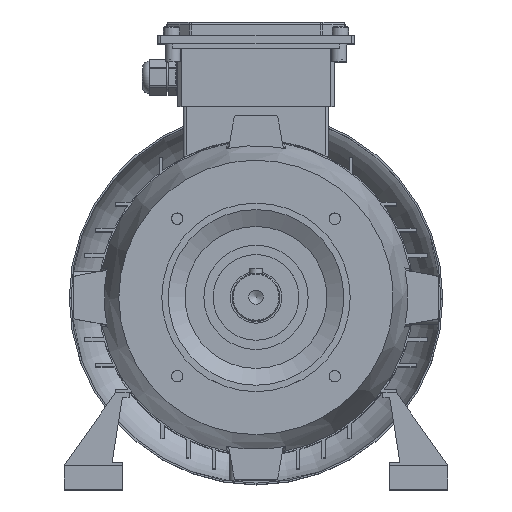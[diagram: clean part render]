
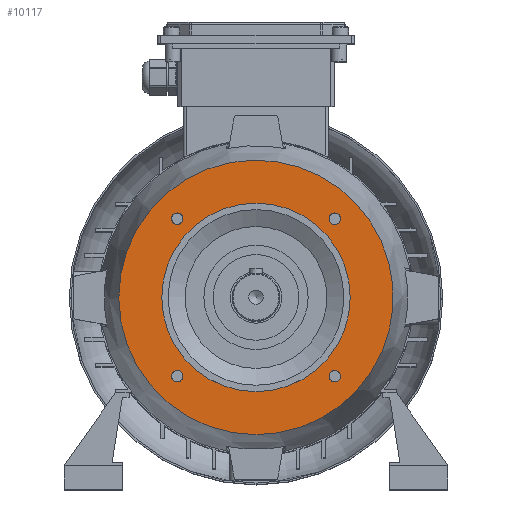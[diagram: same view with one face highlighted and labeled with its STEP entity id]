
A CAD part, top view. The second image highlights one B-rep face of the part: STEP entity #10117.
In plain terms, the highlighted planar face has unit normal (0, 0, 1).
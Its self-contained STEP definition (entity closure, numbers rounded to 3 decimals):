
#2178=PLANE('',#11131);
#2348=FACE_BOUND('',#3519,.T.);
#2349=FACE_BOUND('',#3520,.T.);
#2350=FACE_BOUND('',#3521,.T.);
#2351=FACE_BOUND('',#3522,.T.);
#2352=FACE_BOUND('',#3523,.T.);
#2353=FACE_BOUND('',#3524,.T.);
#3519=EDGE_LOOP('',(#9042));
#3520=EDGE_LOOP('',(#9043));
#3521=EDGE_LOOP('',(#9044));
#3522=EDGE_LOOP('',(#9045));
#3523=EDGE_LOOP('',(#9046));
#3524=EDGE_LOOP('',(#9047));
#4044=CIRCLE('',#11107,80.089);
#4050=CIRCLE('',#11119,3.324);
#4051=CIRCLE('',#11121,3.324);
#4052=CIRCLE('',#11123,3.324);
#4053=CIRCLE('',#11125,3.324);
#4056=CIRCLE('',#11130,55.);
#4961=VERTEX_POINT('',#18040);
#4967=VERTEX_POINT('',#18058);
#4968=VERTEX_POINT('',#18061);
#4969=VERTEX_POINT('',#18064);
#4970=VERTEX_POINT('',#18067);
#4973=VERTEX_POINT('',#18075);
#6356=EDGE_CURVE('',#4961,#4961,#4044,.T.);
#6362=EDGE_CURVE('',#4967,#4967,#4050,.T.);
#6363=EDGE_CURVE('',#4968,#4968,#4051,.T.);
#6364=EDGE_CURVE('',#4969,#4969,#4052,.T.);
#6365=EDGE_CURVE('',#4970,#4970,#4053,.T.);
#6368=EDGE_CURVE('',#4973,#4973,#4056,.T.);
#9042=ORIENTED_EDGE('',*,*,#6362,.T.);
#9043=ORIENTED_EDGE('',*,*,#6363,.T.);
#9044=ORIENTED_EDGE('',*,*,#6364,.T.);
#9045=ORIENTED_EDGE('',*,*,#6365,.T.);
#9046=ORIENTED_EDGE('',*,*,#6368,.F.);
#9047=ORIENTED_EDGE('',*,*,#6356,.F.);
#10117=ADVANCED_FACE('',(#2348,#2349,#2350,#2351,#2352,#2353),#2178,.T.);
#11107=AXIS2_PLACEMENT_3D('',#18041,#13780,#13781);
#11119=AXIS2_PLACEMENT_3D('',#18059,#13804,#13805);
#11121=AXIS2_PLACEMENT_3D('',#18062,#13808,#13809);
#11123=AXIS2_PLACEMENT_3D('',#18065,#13812,#13813);
#11125=AXIS2_PLACEMENT_3D('',#18068,#13816,#13817);
#11130=AXIS2_PLACEMENT_3D('',#18076,#13826,#13827);
#11131=AXIS2_PLACEMENT_3D('',#18077,#13828,#13829);
#13780=DIRECTION('center_axis',(0.,0.,-1.));
#13781=DIRECTION('ref_axis',(0.,1.,0.));
#13804=DIRECTION('center_axis',(0.,0.,-1.));
#13805=DIRECTION('ref_axis',(0.,-1.,0.));
#13808=DIRECTION('center_axis',(0.,0.,-1.));
#13809=DIRECTION('ref_axis',(-1.,0.,0.));
#13812=DIRECTION('center_axis',(0.,0.,-1.));
#13813=DIRECTION('ref_axis',(0.,1.,0.));
#13816=DIRECTION('center_axis',(0.,0.,-1.));
#13817=DIRECTION('ref_axis',(1.,0.,0.));
#13826=DIRECTION('center_axis',(0.,0.,1.));
#13827=DIRECTION('ref_axis',(-1.,0.,0.));
#13828=DIRECTION('center_axis',(0.,0.,1.));
#13829=DIRECTION('ref_axis',(1.,0.,0.));
#18040=CARTESIAN_POINT('',(0.,-80.089,39.));
#18041=CARTESIAN_POINT('Origin',(0.,0.,39.));
#18058=CARTESIAN_POINT('',(45.962,42.638,39.));
#18059=CARTESIAN_POINT('Origin',(45.962,45.962,39.));
#18061=CARTESIAN_POINT('',(42.638,-45.962,39.));
#18062=CARTESIAN_POINT('Origin',(45.962,-45.962,39.));
#18064=CARTESIAN_POINT('',(-45.962,-42.638,39.));
#18065=CARTESIAN_POINT('Origin',(-45.962,-45.962,39.));
#18067=CARTESIAN_POINT('',(-42.638,45.962,39.));
#18068=CARTESIAN_POINT('Origin',(-45.962,45.962,39.));
#18075=CARTESIAN_POINT('',(55.,0.,39.));
#18076=CARTESIAN_POINT('Origin',(0.,0.,39.));
#18077=CARTESIAN_POINT('Origin',(0.,0.,
39.));
